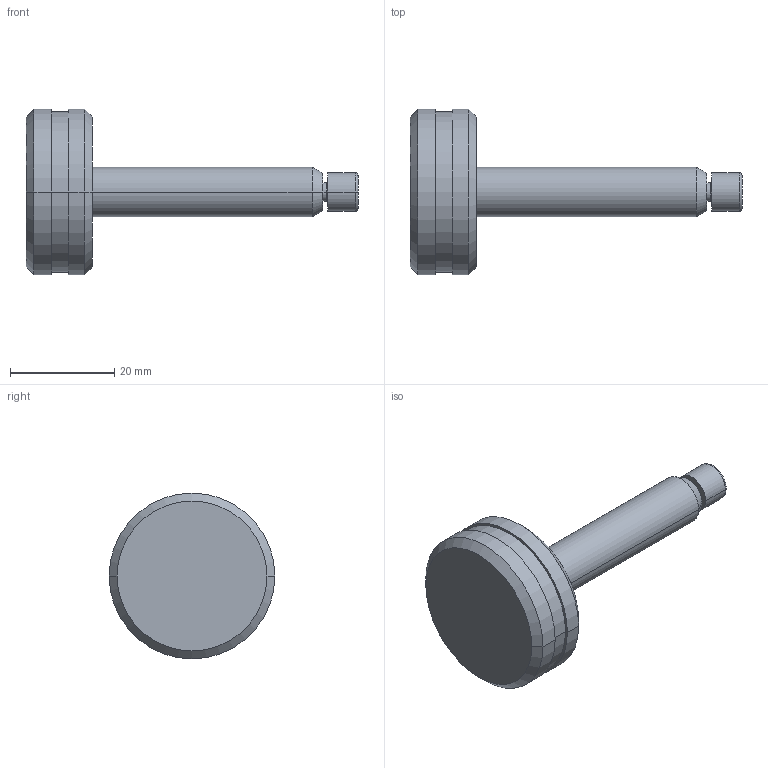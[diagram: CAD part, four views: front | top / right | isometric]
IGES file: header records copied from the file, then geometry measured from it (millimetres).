
Start section:  PTC IGES file: sch341-part.igs
Global section: file name: sch341-part.igs; native system: Pro/ENGINEER by Parametric Technology Corporation; preprocessor: 2002350; author: chant; organization: Unknown; date: 070529.162138; units: inch
Bounding box: 63.6 x 31.75 x 31.75 mm (x, y, z)
Surface area: 4356.7 mm2 (no closed solid volume)
Topology: 0 solids, 0 shells, 33 faces, 172 edges, 194 vertices
Faces by surface type: revolution 26, bspline 7
